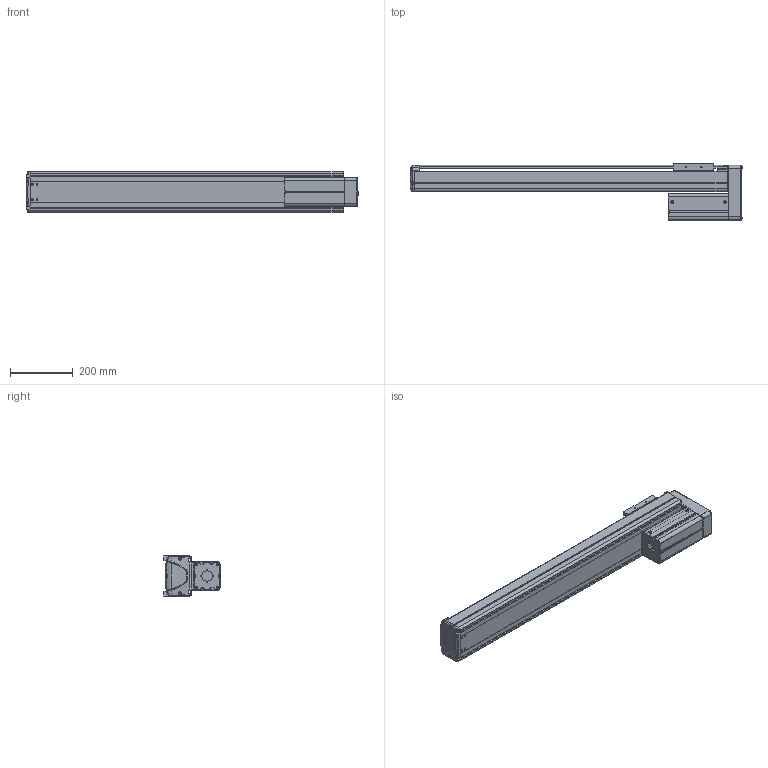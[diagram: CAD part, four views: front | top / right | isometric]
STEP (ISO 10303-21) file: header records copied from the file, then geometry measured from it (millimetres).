
FILE_DESCRIPTION((''),'2;1');
FILE_NAME('BE30E-UU-M_B-80_IGS_PRT','2017-06-17T',(' '),(''),'PRO/ENGINEER BY PARAMETRIC TECHNOLOGY CORPORATION, 2015030','PRO/ENGINEER BY PARAMETRIC TECHNOLOGY CORPORATION, 2015030','');
FILE_SCHEMA(('CONFIG_CONTROL_DESIGN'));
Length unit declared in the file: millimetre
Products named in the file (1): BE30E-UU-M_B-80_IGS_PRT
Bounding box: 1061.9 x 180 x 130 mm (x, y, z)
Volume: 3554768.5 mm3; surface area: 1547502.4 mm2
Topology: 2 solids, 122 shells, 2038 faces, 5499 edges, 3570 vertices
Faces by surface type: plane 991, cylinder 851, cone 107, torus 37, bspline 28, sphere 24
Entity records: 66037 total; most frequent: CARTESIAN_POINT 13972, DIRECTION 11002, ORIENTED_EDGE 10459, EDGE_CURVE 5461, AXIS2_PLACEMENT_3D 3877, VERTEX_POINT 3570, VECTOR 3248, LINE 3248
